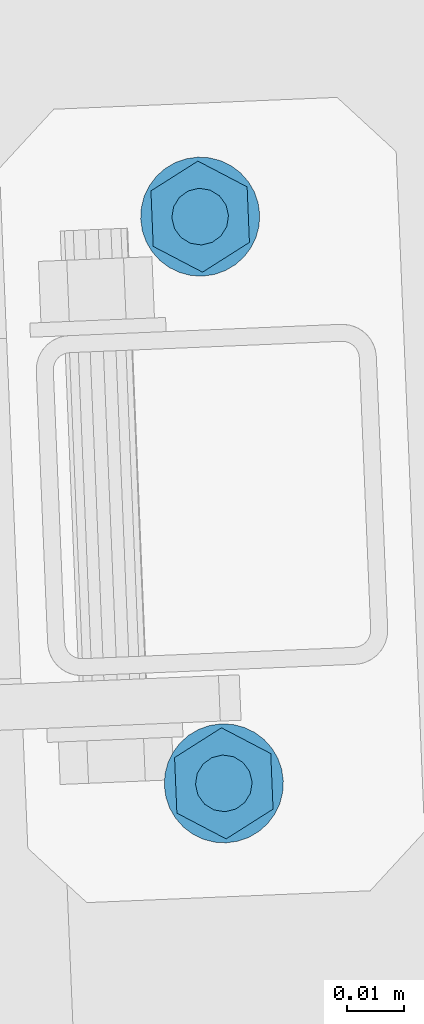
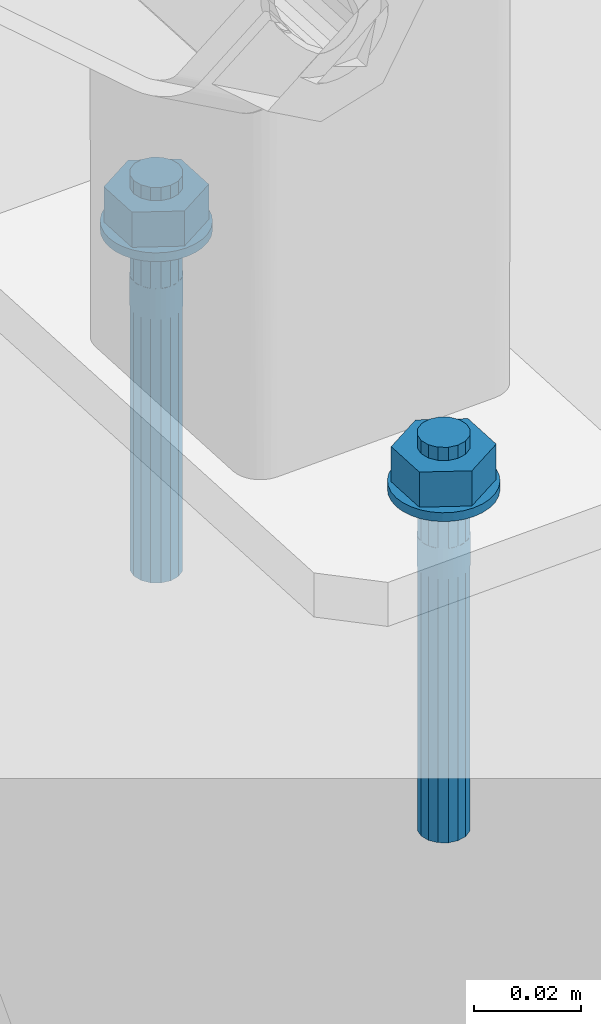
# One storey, part 223 of 288: 2 mechanical fasteners.
"""IFC2X3 building model written with IfcOpenShell, lengths in millimetres."""

from ifc_helpers import new_model, entity, si_unit, converted_unit, origin_with_axes, place, context, project, spatial, faceted_brep, element, save


model = new_model("IFC2X3")

# Units and contexts
model_context = context("Model", 3, precision=1e-09, world=origin_with_axes())
ifc_project = project(units=[si_unit("LENGTHUNIT", "METRE", prefix="MILLI"), si_unit("AREAUNIT", "SQUARE_METRE"), si_unit("VOLUMEUNIT", "CUBIC_METRE"), converted_unit("PLANEANGLEUNIT", "DEGREE", entity("IfcPlaneAngleMeasure", 0.01745329), si_unit("PLANEANGLEUNIT", "RADIAN"), dimensions=[0, 0, 0, 0, 0, 0, 0])], contexts=[model_context])

# Site, building, storey
site_placement = place(None, origin_with_axes())
site = spatial("IfcSite", under=ifc_project, at=site_placement, Name="Remont ?wietlik?w nad MC w NCPP w Opolu", CompositionType="ELEMENT")
building_placement = place(site_placement, origin_with_axes())
building = spatial("IfcBuilding", under=site, at=building_placement, Name="Konstrukcja 1", CompositionType="ELEMENT")
storey_placement = place(building_placement, origin_with_axes())
storey = spatial("IfcBuildingStorey", under=building, at=storey_placement, Name="Default Storey", CompositionType="ELEMENT", Elevation=0.0)

# Mechanical fasteners
mechanical_fastener_1_placement = place(None, origin_with_axes())
element("IfcMechanicalFastener", 1, at=mechanical_fastener_1_placement, inside=storey, ObjectType="Anchor_Bolt", NominalDiameter=10.0, NominalLength=90.0, context=model_context, shape_type="Brep", body=[
    faceted_brep([(1601.84122107, 7074.470400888, 12.000000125), (1601.84122107, 7074.470400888, 10.000000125), (1601.554279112, 7076.508662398, 10.000000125), (1601.554279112, 7076.508662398, 12.000000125), (1600.875205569, 7078.451779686, 10.000000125), (1600.875205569, 7078.451779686, 12.000000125), (1599.830096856, 7080.225079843, 10.000000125), (1599.830096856, 7080.225079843, 12.000000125), (1598.459115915, 7081.76041594, 10.000000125), (1598.459115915, 7081.76041594, 12.000000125), (1596.814948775, 7082.998785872, 10.000000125), (1596.814948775, 7082.998785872, 12.000000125), (1594.960779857, 7083.892599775, 10.000000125), (1594.960779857, 7083.892599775, 12.000000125), (1592.967863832, 7084.407508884, 10.000000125), (1592.967863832, 7084.407508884, 12.000000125), (1590.912787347, 7084.523725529, 10.000000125), (1590.912787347, 7084.523725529, 12.000000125), (1588.874525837, 7084.236783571, 10.000000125), (1588.874525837, 7084.236783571, 12.000000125), (1586.931408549, 7083.557710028, 10.000000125), (1586.931408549, 7083.557710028, 12.000000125), (1585.158108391, 7082.512601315, 10.000000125), (1585.158108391, 7082.512601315, 12.000000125), (1583.622772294, 7081.141620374, 10.000000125), (1583.622772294, 7081.141620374, 12.000000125), (1582.384402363, 7079.497453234, 10.000000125), (1582.384402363, 7079.497453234, 12.000000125), (1581.490588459, 7077.643284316, 10.000000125), (1581.490588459, 7077.643284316, 12.000000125), (1580.975679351, 7075.650368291, 10.000000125), (1580.975679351, 7075.650368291, 12.000000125), (1580.859462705, 7073.595291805, 10.000000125), (1580.859462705, 7073.595291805, 12.000000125), (1581.146404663, 7071.557030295, 10.000000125), (1581.146404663, 7071.557030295, 12.000000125), (1581.825478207, 7069.613913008, 10.000000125), (1581.825478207, 7069.613913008, 12.000000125), (1582.87058692, 7067.84061285, 10.000000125), (1582.87058692, 7067.84061285, 12.000000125), (1584.24156786, 7066.305276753, 10.000000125), (1584.24156786, 7066.305276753, 12.000000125), (1585.885735, 7065.066906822, 10.000000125), (1585.885735, 7065.066906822, 12.000000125), (1587.739903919, 7064.173092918, 10.000000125), (1587.739903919, 7064.173092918, 12.000000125), (1589.732819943, 7063.65818381, 10.000000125), (1589.732819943, 7063.65818381, 12.000000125), (1591.787896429, 7063.541967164, 10.000000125), (1591.787896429, 7063.541967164, 12.000000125), (1593.826157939, 7063.828909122, 10.000000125), (1593.826157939, 7063.828909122, 12.000000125), (1595.769275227, 7064.507982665, 10.000000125), (1595.769275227, 7064.507982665, 12.000000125), (1597.542575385, 7065.553091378, 10.000000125), (1597.542575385, 7065.553091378, 12.000000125), (1599.077911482, 7066.924072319, 10.000000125), (1599.077911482, 7066.924072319, 12.000000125), (1600.316281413, 7068.568239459, 10.000000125), (1600.316281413, 7068.568239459, 12.000000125), (1601.210095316, 7070.422408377, 10.000000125), (1601.210095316, 7070.422408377, 12.000000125), (1601.725004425, 7072.415324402, 10.000000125), (1601.725004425, 7072.415324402, 12.000000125)], [[[0, 1, 2, 3]], [[3, 2, 4, 5]], [[5, 4, 6, 7]], [[7, 6, 8, 9]], [[9, 8, 10, 11]], [[11, 10, 12, 13]], [[13, 12, 14, 15]], [[15, 14, 16, 17]], [[17, 16, 18, 19]], [[19, 18, 20, 21]], [[21, 20, 22, 23]], [[23, 22, 24, 25]], [[25, 24, 26, 27]], [[27, 26, 28, 29]], [[29, 28, 30, 31]], [[31, 30, 32, 33]], [[33, 32, 34, 35]], [[35, 34, 36, 37]], [[37, 36, 38, 39]], [[39, 38, 40, 41]], [[41, 40, 42, 43]], [[43, 42, 44, 45]], [[45, 44, 46, 47]], [[47, 46, 48, 49]], [[49, 48, 50, 51]], [[51, 50, 52, 53]], [[53, 52, 54, 55]], [[55, 54, 56, 57]], [[57, 56, 58, 59]], [[59, 58, 60, 61]], [[61, 60, 62, 63]], [[63, 62, 1, 0]], [[0, 3, 5, 7, 9, 11, 13, 15, 17, 19, 21, 23, 25, 27, 29, 31, 33, 35, 37, 39, 41, 43, 45, 47, 49, 51, 53, 55, 57, 59, 61, 63]], [[1, 62, 60, 58, 56, 54, 52, 50, 48, 46, 44, 42, 40, 38, 36, 34, 32, 30, 28, 26, 24, 22, 20, 18, 16, 14, 12, 10, 8, 6, 4, 2]]]),
    faceted_brep([(1582.666473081, 7078.57491884, 12.000000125), (1582.666473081, 7078.57491884, 20.000000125), (1590.941957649, 7083.824333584, 20.000000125), (1590.941957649, 7083.824333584, 12.000000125), (1599.625826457, 7079.28226109, 20.000000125), (1599.625826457, 7079.28226109, 12.000000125), (1600.034210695, 7069.490773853, 20.000000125), (1600.034210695, 7069.490773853, 12.000000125), (1591.758726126, 7064.24135911, 20.000000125), (1591.758726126, 7064.24135911, 12.000000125), (1583.074857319, 7068.783431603, 20.000000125), (1583.074857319, 7068.783431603, 12.000000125)], [[[0, 1, 2, 3]], [[3, 2, 4, 5]], [[5, 4, 6, 7]], [[7, 6, 8, 9]], [[9, 8, 10, 11]], [[11, 10, 1, 0]], [[4, 2, 1, 10, 8, 6]], [[0, 3, 5, 7, 9, 11]]]),
    faceted_brep([(1596.345998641, 7074.241205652, 23.000000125), (1596.345998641, 7074.241205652, 20.000000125), (1595.88599126, 7076.137100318, 20.000000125), (1595.88599126, 7076.137100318, 23.000000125), (1594.735472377, 7077.712641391, 20.000000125), (1594.735472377, 7077.712641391, 23.000000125), (1593.069598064, 7078.727967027, 20.000000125), (1593.069598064, 7078.727967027, 23.000000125), (1591.141982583, 7079.0285031, 20.000000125), (1591.141982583, 7079.0285031, 23.000000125), (1589.246087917, 7078.568495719, 20.000000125), (1589.246087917, 7078.568495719, 23.000000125), (1587.670546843, 7077.417976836, 20.000000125), (1587.670546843, 7077.417976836, 23.000000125), (1586.655221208, 7075.752102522, 20.000000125), (1586.655221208, 7075.752102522, 23.000000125), (1586.354685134, 7073.824487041, 20.000000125), (1586.354685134, 7073.824487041, 23.000000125), (1586.814692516, 7071.928592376, 20.000000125), (1586.814692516, 7071.928592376, 23.000000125), (1587.965211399, 7070.353051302, 20.000000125), (1587.965211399, 7070.353051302, 23.000000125), (1589.631085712, 7069.337725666, 20.000000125), (1589.631085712, 7069.337725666, 23.000000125), (1591.558701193, 7069.037189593, 20.000000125), (1591.558701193, 7069.037189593, 23.000000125), (1593.454595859, 7069.497196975, 20.000000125), (1593.454595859, 7069.497196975, 23.000000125), (1595.030136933, 7070.647715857, 20.000000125), (1595.030136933, 7070.647715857, 23.000000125), (1596.045462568, 7072.313590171, 20.000000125), (1596.045462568, 7072.313590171, 23.000000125)], [[[0, 1, 2, 3]], [[3, 2, 4, 5]], [[5, 4, 6, 7]], [[7, 6, 8, 9]], [[9, 8, 10, 11]], [[11, 10, 12, 13]], [[13, 12, 14, 15]], [[15, 14, 16, 17]], [[17, 16, 18, 19]], [[19, 18, 20, 21]], [[21, 20, 22, 23]], [[23, 22, 24, 25]], [[25, 24, 26, 27]], [[27, 26, 28, 29]], [[29, 28, 30, 31]], [[31, 30, 1, 0]], [[0, 3, 5, 7, 9, 11, 13, 15, 17, 19, 21, 23, 25, 27, 29, 31]], [[1, 30, 28, 26, 24, 22, 20, 18, 16, 14, 12, 10, 8, 6, 4, 2]]]),
    faceted_brep([(1596.345998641, 7074.241205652, 10.000000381), (1596.345998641, 7074.241205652, 1.25e-07), (1595.88599126, 7076.137100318, 1.25e-07), (1595.88599126, 7076.137100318, 10.000000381), (1594.735472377, 7077.712641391, 1.25e-07), (1594.735472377, 7077.712641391, 10.000000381), (1593.069598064, 7078.727967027, 1.25e-07), (1593.069598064, 7078.727967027, 10.000000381), (1591.141982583, 7079.0285031, 1.25e-07), (1591.141982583, 7079.0285031, 10.000000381), (1589.246087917, 7078.568495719, 1.25e-07), (1589.246087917, 7078.568495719, 10.000000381), (1587.670546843, 7077.417976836, 1.25e-07), (1587.670546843, 7077.417976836, 10.000000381), (1586.655221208, 7075.752102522, 1.25e-07), (1586.655221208, 7075.752102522, 10.000000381), (1586.354685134, 7073.824487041, 1.25e-07), (1586.354685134, 7073.824487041, 10.000000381), (1586.814692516, 7071.928592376, 1.25e-07), (1586.814692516, 7071.928592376, 10.000000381), (1587.965211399, 7070.353051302, 1.25e-07), (1587.965211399, 7070.353051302, 10.000000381), (1589.631085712, 7069.337725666, 1.25e-07), (1589.631085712, 7069.337725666, 10.000000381), (1591.558701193, 7069.037189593, 1.25e-07), (1591.558701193, 7069.037189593, 10.000000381), (1593.454595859, 7069.497196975, 1.25e-07), (1593.454595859, 7069.497196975, 10.000000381), (1595.030136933, 7070.647715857, 1.25e-07), (1595.030136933, 7070.647715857, 10.000000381), (1596.045462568, 7072.313590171, 1.25e-07), (1596.045462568, 7072.313590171, 10.000000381)], [[[0, 1, 2, 3]], [[3, 2, 4, 5]], [[5, 4, 6, 7]], [[7, 6, 8, 9]], [[9, 8, 10, 11]], [[11, 10, 12, 13]], [[13, 12, 14, 15]], [[15, 14, 16, 17]], [[17, 16, 18, 19]], [[19, 18, 20, 21]], [[21, 20, 22, 23]], [[23, 22, 24, 25]], [[25, 24, 26, 27]], [[27, 26, 28, 29]], [[29, 28, 30, 31]], [[31, 30, 1, 0]], [[0, 3, 5, 7, 9, 11, 13, 15, 17, 19, 21, 23, 25, 27, 29, 31]], [[1, 30, 28, 26, 24, 22, 20, 18, 16, 14, 12, 10, 8, 6, 4, 2]]]),
    faceted_brep([(1596.345998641, 7074.241205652, -1.31e-07), (1596.345998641, 7074.241205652, -6.999999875), (1596.209359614, 7075.211806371, -6.999999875), (1596.209359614, 7075.211806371, -1.31e-07), (1595.88599126, 7076.137100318, -6.999999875), (1595.88599126, 7076.137100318, -1.31e-07), (1595.388320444, 7076.981528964, -6.999999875), (1595.388320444, 7076.981528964, -1.31e-07), (1594.735472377, 7077.712641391, -6.999999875), (1594.735472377, 7077.712641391, -1.31e-07), (1593.952535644, 7078.302341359, -6.999999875), (1593.952535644, 7078.302341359, -1.31e-07), (1593.069598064, 7078.727967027, -6.999999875), (1593.069598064, 7078.727967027, -1.31e-07), (1592.120590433, 7078.97316184, -6.999999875), (1592.120590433, 7078.97316184, -1.31e-07), (1591.141982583, 7079.0285031, -6.999999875), (1591.141982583, 7079.0285031, -1.31e-07), (1590.171381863, 7078.891864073, -6.999999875), (1590.171381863, 7078.891864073, -1.31e-07), (1589.246087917, 7078.568495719, -6.999999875), (1589.246087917, 7078.568495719, -1.31e-07), (1588.40165927, 7078.070824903, -6.999999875), (1588.40165927, 7078.070824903, -1.31e-07), (1587.670546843, 7077.417976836, -6.999999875), (1587.670546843, 7077.417976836, -1.31e-07), (1587.080846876, 7076.635040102, -6.999999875), (1587.080846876, 7076.635040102, -1.31e-07), (1586.655221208, 7075.752102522, -6.999999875), (1586.655221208, 7075.752102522, -1.31e-07), (1586.410026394, 7074.803094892, -6.999999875), (1586.410026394, 7074.803094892, -1.31e-07), (1586.354685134, 7073.824487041, -6.999999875), (1586.354685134, 7073.824487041, -1.31e-07), (1586.491324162, 7072.853886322, -6.999999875), (1586.491324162, 7072.853886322, -1.31e-07), (1586.814692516, 7071.928592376, -6.999999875), (1586.814692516, 7071.928592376, -1.31e-07), (1587.312363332, 7071.084163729, -6.999999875), (1587.312363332, 7071.084163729, -1.31e-07), (1587.965211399, 7070.353051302, -6.999999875), (1587.965211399, 7070.353051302, -1.31e-07), (1588.748148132, 7069.763351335, -6.999999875), (1588.748148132, 7069.763351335, -1.31e-07), (1589.631085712, 7069.337725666, -6.999999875), (1589.631085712, 7069.337725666, -1.31e-07), (1590.580093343, 7069.092530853, -6.999999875), (1590.580093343, 7069.092530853, -1.31e-07), (1591.558701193, 7069.037189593, -6.999999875), (1591.558701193, 7069.037189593, -1.31e-07), (1592.529301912, 7069.173828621, -6.999999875), (1592.529301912, 7069.173828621, -1.31e-07), (1593.454595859, 7069.497196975, -6.999999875), (1593.454595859, 7069.497196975, -1.31e-07), (1594.299024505, 7069.99486779, -6.999999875), (1594.299024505, 7069.99486779, -1.31e-07), (1595.030136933, 7070.647715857, -6.999999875), (1595.030136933, 7070.647715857, -1.31e-07), (1595.6198369, 7071.430652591, -6.999999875), (1595.6198369, 7071.430652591, -1.31e-07), (1596.045462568, 7072.313590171, -6.999999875), (1596.045462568, 7072.313590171, -1.31e-07), (1596.290657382, 7073.262597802, -6.999999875), (1596.290657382, 7073.262597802, -1.31e-07)], [[[0, 1, 2, 3]], [[3, 2, 4, 5]], [[5, 4, 6, 7]], [[7, 6, 8, 9]], [[9, 8, 10, 11]], [[11, 10, 12, 13]], [[13, 12, 14, 15]], [[15, 14, 16, 17]], [[17, 16, 18, 19]], [[19, 18, 20, 21]], [[21, 20, 22, 23]], [[23, 22, 24, 25]], [[25, 24, 26, 27]], [[27, 26, 28, 29]], [[29, 28, 30, 31]], [[31, 30, 32, 33]], [[33, 32, 34, 35]], [[35, 34, 36, 37]], [[37, 36, 38, 39]], [[39, 38, 40, 41]], [[41, 40, 42, 43]], [[43, 42, 44, 45]], [[45, 44, 46, 47]], [[47, 46, 48, 49]], [[49, 48, 50, 51]], [[51, 50, 52, 53]], [[53, 52, 54, 55]], [[55, 54, 56, 57]], [[57, 56, 58, 59]], [[59, 58, 60, 61]], [[61, 60, 62, 63]], [[63, 62, 1, 0]], [[0, 3, 5, 7, 9, 11, 13, 15, 17, 19, 21, 23, 25, 27, 29, 31, 33, 35, 37, 39, 41, 43, 45, 47, 49, 51, 53, 55, 57, 59, 61, 63]], [[1, 62, 60, 58, 56, 54, 52, 50, 48, 46, 44, 42, 40, 38, 36, 34, 32, 30, 28, 26, 24, 22, 20, 18, 16, 14, 12, 10, 8, 6, 4, 2]]]),
    faceted_brep([(1596.345998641, 7074.241205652, -6.999999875), (1596.345998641, 7074.241205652, -66.999999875), (1595.88599126, 7076.137100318, -66.999999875), (1595.88599126, 7076.137100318, -6.999999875), (1594.735472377, 7077.712641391, -66.999999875), (1594.735472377, 7077.712641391, -6.999999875), (1593.069598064, 7078.727967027, -66.999999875), (1593.069598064, 7078.727967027, -6.999999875), (1591.141982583, 7079.0285031, -66.999999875), (1591.141982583, 7079.0285031, -6.999999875), (1589.246087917, 7078.568495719, -66.999999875), (1589.246087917, 7078.568495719, -6.999999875), (1587.670546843, 7077.417976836, -66.999999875), (1587.670546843, 7077.417976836, -6.999999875), (1586.655221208, 7075.752102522, -66.999999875), (1586.655221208, 7075.752102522, -6.999999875), (1586.354685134, 7073.824487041, -66.999999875), (1586.354685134, 7073.824487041, -6.999999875), (1586.814692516, 7071.928592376, -66.999999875), (1586.814692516, 7071.928592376, -6.999999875), (1587.965211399, 7070.353051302, -66.999999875), (1587.965211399, 7070.353051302, -6.999999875), (1589.631085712, 7069.337725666, -66.999999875), (1589.631085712, 7069.337725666, -6.999999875), (1591.558701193, 7069.037189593, -66.999999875), (1591.558701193, 7069.037189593, -6.999999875), (1593.454595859, 7069.497196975, -66.999999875), (1593.454595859, 7069.497196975, -6.999999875), (1595.030136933, 7070.647715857, -66.999999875), (1595.030136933, 7070.647715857, -6.999999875), (1596.045462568, 7072.313590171, -66.999999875), (1596.045462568, 7072.313590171, -6.999999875)], [[[0, 1, 2, 3]], [[3, 2, 4, 5]], [[5, 4, 6, 7]], [[7, 6, 8, 9]], [[9, 8, 10, 11]], [[11, 10, 12, 13]], [[13, 12, 14, 15]], [[15, 14, 16, 17]], [[17, 16, 18, 19]], [[19, 18, 20, 21]], [[21, 20, 22, 23]], [[23, 22, 24, 25]], [[25, 24, 26, 27]], [[27, 26, 28, 29]], [[29, 28, 30, 31]], [[31, 30, 1, 0]], [[0, 3, 5, 7, 9, 11, 13, 15, 17, 19, 21, 23, 25, 27, 29, 31]], [[1, 30, 28, 26, 24, 22, 20, 18, 16, 14, 12, 10, 8, 6, 4, 2]]]),
])
mechanical_fastener_2_placement = place(None, origin_with_axes())
element("IfcMechanicalFastener", 2, at=mechanical_fastener_2_placement, inside=storey, ObjectType="Anchor_Bolt", NominalDiameter=10.0, NominalLength=90.0, context=model_context, shape_type="Brep", body=[
    faceted_brep([(1597.674034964, 7174.38353596, 12.000000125), (1597.674034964, 7174.38353596, 10.000000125), (1597.387093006, 7176.42179747, 10.000000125), (1597.387093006, 7176.42179747, 12.000000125), (1596.708019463, 7178.364914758, 10.000000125), (1596.708019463, 7178.364914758, 12.000000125), (1595.66291075, 7180.138214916, 10.000000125), (1595.66291075, 7180.138214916, 12.000000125), (1594.291929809, 7181.673551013, 10.000000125), (1594.291929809, 7181.673551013, 12.000000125), (1592.647762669, 7182.911920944, 10.000000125), (1592.647762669, 7182.911920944, 12.000000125), (1590.793593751, 7183.805734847, 10.000000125), (1590.793593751, 7183.805734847, 12.000000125), (1588.800677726, 7184.320643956, 10.000000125), (1588.800677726, 7184.320643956, 12.000000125), (1586.745601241, 7184.436860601, 10.000000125), (1586.745601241, 7184.436860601, 12.000000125), (1584.70733973, 7184.149918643, 10.000000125), (1584.70733973, 7184.149918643, 12.000000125), (1582.764222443, 7183.4708451, 10.000000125), (1582.764222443, 7183.4708451, 12.000000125), (1580.990922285, 7182.425736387, 10.000000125), (1580.990922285, 7182.425736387, 12.000000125), (1579.455586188, 7181.054755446, 10.000000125), (1579.455586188, 7181.054755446, 12.000000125), (1578.217216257, 7179.410588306, 10.000000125), (1578.217216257, 7179.410588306, 12.000000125), (1577.323402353, 7177.556419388, 10.000000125), (1577.323402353, 7177.556419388, 12.000000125), (1576.808493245, 7175.563503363, 10.000000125), (1576.808493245, 7175.563503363, 12.000000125), (1576.692276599, 7173.508426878, 10.000000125), (1576.692276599, 7173.508426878, 12.000000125), (1576.979218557, 7171.470165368, 10.000000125), (1576.979218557, 7171.470165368, 12.000000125), (1577.658292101, 7169.52704808, 10.000000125), (1577.658292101, 7169.52704808, 12.000000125), (1578.703400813, 7167.753747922, 10.000000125), (1578.703400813, 7167.753747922, 12.000000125), (1580.074381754, 7166.218411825, 10.000000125), (1580.074381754, 7166.218411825, 12.000000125), (1581.718548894, 7164.980041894, 10.000000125), (1581.718548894, 7164.980041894, 12.000000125), (1583.572717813, 7164.08622799, 10.000000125), (1583.572717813, 7164.08622799, 12.000000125), (1585.565633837, 7163.571318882, 10.000000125), (1585.565633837, 7163.571318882, 12.000000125), (1587.620710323, 7163.455102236, 10.000000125), (1587.620710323, 7163.455102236, 12.000000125), (1589.658971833, 7163.742044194, 10.000000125), (1589.658971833, 7163.742044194, 12.000000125), (1591.602089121, 7164.421117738, 10.000000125), (1591.602089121, 7164.421117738, 12.000000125), (1593.375389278, 7165.466226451, 10.000000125), (1593.375389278, 7165.466226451, 12.000000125), (1594.910725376, 7166.837207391, 10.000000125), (1594.910725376, 7166.837207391, 12.000000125), (1596.149095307, 7168.481374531, 10.000000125), (1596.149095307, 7168.481374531, 12.000000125), (1597.04290921, 7170.33554345, 10.000000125), (1597.04290921, 7170.33554345, 12.000000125), (1597.557818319, 7172.328459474, 10.000000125), (1597.557818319, 7172.328459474, 12.000000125)], [[[0, 1, 2, 3]], [[3, 2, 4, 5]], [[5, 4, 6, 7]], [[7, 6, 8, 9]], [[9, 8, 10, 11]], [[11, 10, 12, 13]], [[13, 12, 14, 15]], [[15, 14, 16, 17]], [[17, 16, 18, 19]], [[19, 18, 20, 21]], [[21, 20, 22, 23]], [[23, 22, 24, 25]], [[25, 24, 26, 27]], [[27, 26, 28, 29]], [[29, 28, 30, 31]], [[31, 30, 32, 33]], [[33, 32, 34, 35]], [[35, 34, 36, 37]], [[37, 36, 38, 39]], [[39, 38, 40, 41]], [[41, 40, 42, 43]], [[43, 42, 44, 45]], [[45, 44, 46, 47]], [[47, 46, 48, 49]], [[49, 48, 50, 51]], [[51, 50, 52, 53]], [[53, 52, 54, 55]], [[55, 54, 56, 57]], [[57, 56, 58, 59]], [[59, 58, 60, 61]], [[61, 60, 62, 63]], [[63, 62, 1, 0]], [[0, 3, 5, 7, 9, 11, 13, 15, 17, 19, 21, 23, 25, 27, 29, 31, 33, 35, 37, 39, 41, 43, 45, 47, 49, 51, 53, 55, 57, 59, 61, 63]], [[1, 62, 60, 58, 56, 54, 52, 50, 48, 46, 44, 42, 40, 38, 36, 34, 32, 30, 28, 26, 24, 22, 20, 18, 16, 14, 12, 10, 8, 6, 4, 2]]]),
    faceted_brep([(1578.499286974, 7178.488053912, 12.000000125), (1578.499286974, 7178.488053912, 20.000000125), (1586.774771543, 7183.737468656, 20.000000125), (1586.774771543, 7183.737468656, 12.000000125), (1595.458640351, 7179.195396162, 20.000000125), (1595.458640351, 7179.195396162, 12.000000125), (1595.867024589, 7169.403908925, 20.000000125), (1595.867024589, 7169.403908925, 12.000000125), (1587.59154002, 7164.154494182, 20.000000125), (1587.59154002, 7164.154494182, 12.000000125), (1578.907671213, 7168.696566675, 20.000000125), (1578.907671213, 7168.696566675, 12.000000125)], [[[0, 1, 2, 3]], [[3, 2, 4, 5]], [[5, 4, 6, 7]], [[7, 6, 8, 9]], [[9, 8, 10, 11]], [[11, 10, 1, 0]], [[4, 2, 1, 10, 8, 6]], [[0, 3, 5, 7, 9, 11]]]),
    faceted_brep([(1592.178812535, 7174.154340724, 23.000000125), (1592.178812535, 7174.154340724, 20.000000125), (1591.718805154, 7176.05023539, 20.000000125), (1591.718805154, 7176.05023539, 23.000000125), (1590.568286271, 7177.625776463, 20.000000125), (1590.568286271, 7177.625776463, 23.000000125), (1588.902411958, 7178.641102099, 20.000000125), (1588.902411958, 7178.641102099, 23.000000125), (1586.974796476, 7178.941638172, 20.000000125), (1586.974796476, 7178.941638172, 23.000000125), (1585.078901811, 7178.481630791, 20.000000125), (1585.078901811, 7178.481630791, 23.000000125), (1583.503360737, 7177.331111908, 20.000000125), (1583.503360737, 7177.331111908, 23.000000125), (1582.488035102, 7175.665237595, 20.000000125), (1582.488035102, 7175.665237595, 23.000000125), (1582.187499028, 7173.737622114, 20.000000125), (1582.187499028, 7173.737622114, 23.000000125), (1582.64750641, 7171.841727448, 20.000000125), (1582.64750641, 7171.841727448, 23.000000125), (1583.798025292, 7170.266186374, 20.000000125), (1583.798025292, 7170.266186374, 23.000000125), (1585.463899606, 7169.250860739, 20.000000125), (1585.463899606, 7169.250860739, 23.000000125), (1587.391515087, 7168.950324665, 20.000000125), (1587.391515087, 7168.950324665, 23.000000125), (1589.287409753, 7169.410332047, 20.000000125), (1589.287409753, 7169.410332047, 23.000000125), (1590.862950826, 7170.56085093, 20.000000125), (1590.862950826, 7170.56085093, 23.000000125), (1591.878276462, 7172.226725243, 20.000000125), (1591.878276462, 7172.226725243, 23.000000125)], [[[0, 1, 2, 3]], [[3, 2, 4, 5]], [[5, 4, 6, 7]], [[7, 6, 8, 9]], [[9, 8, 10, 11]], [[11, 10, 12, 13]], [[13, 12, 14, 15]], [[15, 14, 16, 17]], [[17, 16, 18, 19]], [[19, 18, 20, 21]], [[21, 20, 22, 23]], [[23, 22, 24, 25]], [[25, 24, 26, 27]], [[27, 26, 28, 29]], [[29, 28, 30, 31]], [[31, 30, 1, 0]], [[0, 3, 5, 7, 9, 11, 13, 15, 17, 19, 21, 23, 25, 27, 29, 31]], [[1, 30, 28, 26, 24, 22, 20, 18, 16, 14, 12, 10, 8, 6, 4, 2]]]),
    faceted_brep([(1592.178812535, 7174.154340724, 10.000000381), (1592.178812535, 7174.154340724, 1.25e-07), (1591.718805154, 7176.05023539, 1.25e-07), (1591.718805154, 7176.05023539, 10.000000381), (1590.568286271, 7177.625776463, 1.25e-07), (1590.568286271, 7177.625776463, 10.000000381), (1588.902411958, 7178.641102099, 1.25e-07), (1588.902411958, 7178.641102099, 10.000000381), (1586.974796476, 7178.941638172, 1.25e-07), (1586.974796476, 7178.941638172, 10.000000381), (1585.078901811, 7178.481630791, 1.25e-07), (1585.078901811, 7178.481630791, 10.000000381), (1583.503360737, 7177.331111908, 1.25e-07), (1583.503360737, 7177.331111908, 10.000000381), (1582.488035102, 7175.665237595, 1.25e-07), (1582.488035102, 7175.665237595, 10.000000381), (1582.187499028, 7173.737622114, 1.25e-07), (1582.187499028, 7173.737622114, 10.000000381), (1582.64750641, 7171.841727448, 1.25e-07), (1582.64750641, 7171.841727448, 10.000000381), (1583.798025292, 7170.266186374, 1.25e-07), (1583.798025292, 7170.266186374, 10.000000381), (1585.463899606, 7169.250860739, 1.25e-07), (1585.463899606, 7169.250860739, 10.000000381), (1587.391515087, 7168.950324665, 1.25e-07), (1587.391515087, 7168.950324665, 10.000000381), (1589.287409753, 7169.410332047, 1.25e-07), (1589.287409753, 7169.410332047, 10.000000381), (1590.862950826, 7170.56085093, 1.25e-07), (1590.862950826, 7170.56085093, 10.000000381), (1591.878276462, 7172.226725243, 1.25e-07), (1591.878276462, 7172.226725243, 10.000000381)], [[[0, 1, 2, 3]], [[3, 2, 4, 5]], [[5, 4, 6, 7]], [[7, 6, 8, 9]], [[9, 8, 10, 11]], [[11, 10, 12, 13]], [[13, 12, 14, 15]], [[15, 14, 16, 17]], [[17, 16, 18, 19]], [[19, 18, 20, 21]], [[21, 20, 22, 23]], [[23, 22, 24, 25]], [[25, 24, 26, 27]], [[27, 26, 28, 29]], [[29, 28, 30, 31]], [[31, 30, 1, 0]], [[0, 3, 5, 7, 9, 11, 13, 15, 17, 19, 21, 23, 25, 27, 29, 31]], [[1, 30, 28, 26, 24, 22, 20, 18, 16, 14, 12, 10, 8, 6, 4, 2]]]),
    faceted_brep([(1592.178812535, 7174.154340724, -1.31e-07), (1592.178812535, 7174.154340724, -6.999999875), (1592.042173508, 7175.124941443, -6.999999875), (1592.042173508, 7175.124941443, -1.31e-07), (1591.718805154, 7176.05023539, -6.999999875), (1591.718805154, 7176.05023539, -1.31e-07), (1591.221134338, 7176.894664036, -6.999999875), (1591.221134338, 7176.894664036, -1.31e-07), (1590.568286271, 7177.625776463, -6.999999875), (1590.568286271, 7177.625776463, -1.31e-07), (1589.785349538, 7178.215476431, -6.999999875), (1589.785349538, 7178.215476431, -1.31e-07), (1588.902411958, 7178.641102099, -6.999999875), (1588.902411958, 7178.641102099, -1.31e-07), (1587.953404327, 7178.886296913, -6.999999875), (1587.953404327, 7178.886296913, -1.31e-07), (1586.974796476, 7178.941638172, -6.999999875), (1586.974796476, 7178.941638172, -1.31e-07), (1586.004195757, 7178.804999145, -6.999999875), (1586.004195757, 7178.804999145, -1.31e-07), (1585.078901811, 7178.481630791, -6.999999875), (1585.078901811, 7178.481630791, -1.31e-07), (1584.234473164, 7177.983959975, -6.999999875), (1584.234473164, 7177.983959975, -1.31e-07), (1583.503360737, 7177.331111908, -6.999999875), (1583.503360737, 7177.331111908, -1.31e-07), (1582.91366077, 7176.548175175, -6.999999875), (1582.91366077, 7176.548175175, -1.31e-07), (1582.488035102, 7175.665237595, -6.999999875), (1582.488035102, 7175.665237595, -1.31e-07), (1582.242840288, 7174.716229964, -6.999999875), (1582.242840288, 7174.716229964, -1.31e-07), (1582.187499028, 7173.737622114, -6.999999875), (1582.187499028, 7173.737622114, -1.31e-07), (1582.324138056, 7172.767021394, -6.999999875), (1582.324138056, 7172.767021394, -1.31e-07), (1582.64750641, 7171.841727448, -6.999999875), (1582.64750641, 7171.841727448, -1.31e-07), (1583.145177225, 7170.997298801, -6.999999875), (1583.145177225, 7170.997298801, -1.31e-07), (1583.798025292, 7170.266186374, -6.999999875), (1583.798025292, 7170.266186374, -1.31e-07), (1584.580962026, 7169.676486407, -6.999999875), (1584.580962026, 7169.676486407, -1.31e-07), (1585.463899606, 7169.250860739, -6.999999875), (1585.463899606, 7169.250860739, -1.31e-07), (1586.412907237, 7169.005665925, -6.999999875), (1586.412907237, 7169.005665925, -1.31e-07), (1587.391515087, 7168.950324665, -6.999999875), (1587.391515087, 7168.950324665, -1.31e-07), (1588.362115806, 7169.086963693, -6.999999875), (1588.362115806, 7169.086963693, -1.31e-07), (1589.287409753, 7169.410332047, -6.999999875), (1589.287409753, 7169.410332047, -1.31e-07), (1590.131838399, 7169.908002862, -6.999999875), (1590.131838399, 7169.908002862, -1.31e-07), (1590.862950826, 7170.56085093, -6.999999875), (1590.862950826, 7170.56085093, -1.31e-07), (1591.452650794, 7171.343787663, -6.999999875), (1591.452650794, 7171.343787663, -1.31e-07), (1591.878276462, 7172.226725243, -6.999999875), (1591.878276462, 7172.226725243, -1.31e-07), (1592.123471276, 7173.175732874, -6.999999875), (1592.123471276, 7173.175732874, -1.31e-07)], [[[0, 1, 2, 3]], [[3, 2, 4, 5]], [[5, 4, 6, 7]], [[7, 6, 8, 9]], [[9, 8, 10, 11]], [[11, 10, 12, 13]], [[13, 12, 14, 15]], [[15, 14, 16, 17]], [[17, 16, 18, 19]], [[19, 18, 20, 21]], [[21, 20, 22, 23]], [[23, 22, 24, 25]], [[25, 24, 26, 27]], [[27, 26, 28, 29]], [[29, 28, 30, 31]], [[31, 30, 32, 33]], [[33, 32, 34, 35]], [[35, 34, 36, 37]], [[37, 36, 38, 39]], [[39, 38, 40, 41]], [[41, 40, 42, 43]], [[43, 42, 44, 45]], [[45, 44, 46, 47]], [[47, 46, 48, 49]], [[49, 48, 50, 51]], [[51, 50, 52, 53]], [[53, 52, 54, 55]], [[55, 54, 56, 57]], [[57, 56, 58, 59]], [[59, 58, 60, 61]], [[61, 60, 62, 63]], [[63, 62, 1, 0]], [[0, 3, 5, 7, 9, 11, 13, 15, 17, 19, 21, 23, 25, 27, 29, 31, 33, 35, 37, 39, 41, 43, 45, 47, 49, 51, 53, 55, 57, 59, 61, 63]], [[1, 62, 60, 58, 56, 54, 52, 50, 48, 46, 44, 42, 40, 38, 36, 34, 32, 30, 28, 26, 24, 22, 20, 18, 16, 14, 12, 10, 8, 6, 4, 2]]]),
    faceted_brep([(1592.178812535, 7174.154340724, -6.999999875), (1592.178812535, 7174.154340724, -66.999999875), (1591.718805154, 7176.05023539, -66.999999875), (1591.718805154, 7176.05023539, -6.999999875), (1590.568286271, 7177.625776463, -66.999999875), (1590.568286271, 7177.625776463, -6.999999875), (1588.902411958, 7178.641102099, -66.999999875), (1588.902411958, 7178.641102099, -6.999999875), (1586.974796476, 7178.941638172, -66.999999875), (1586.974796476, 7178.941638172, -6.999999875), (1585.078901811, 7178.481630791, -66.999999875), (1585.078901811, 7178.481630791, -6.999999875), (1583.503360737, 7177.331111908, -66.999999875), (1583.503360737, 7177.331111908, -6.999999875), (1582.488035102, 7175.665237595, -66.999999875), (1582.488035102, 7175.665237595, -6.999999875), (1582.187499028, 7173.737622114, -66.999999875), (1582.187499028, 7173.737622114, -6.999999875), (1582.64750641, 7171.841727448, -66.999999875), (1582.64750641, 7171.841727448, -6.999999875), (1583.798025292, 7170.266186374, -66.999999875), (1583.798025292, 7170.266186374, -6.999999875), (1585.463899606, 7169.250860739, -66.999999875), (1585.463899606, 7169.250860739, -6.999999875), (1587.391515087, 7168.950324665, -66.999999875), (1587.391515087, 7168.950324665, -6.999999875), (1589.287409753, 7169.410332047, -66.999999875), (1589.287409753, 7169.410332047, -6.999999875), (1590.862950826, 7170.56085093, -66.999999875), (1590.862950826, 7170.56085093, -6.999999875), (1591.878276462, 7172.226725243, -66.999999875), (1591.878276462, 7172.226725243, -6.999999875)], [[[0, 1, 2, 3]], [[3, 2, 4, 5]], [[5, 4, 6, 7]], [[7, 6, 8, 9]], [[9, 8, 10, 11]], [[11, 10, 12, 13]], [[13, 12, 14, 15]], [[15, 14, 16, 17]], [[17, 16, 18, 19]], [[19, 18, 20, 21]], [[21, 20, 22, 23]], [[23, 22, 24, 25]], [[25, 24, 26, 27]], [[27, 26, 28, 29]], [[29, 28, 30, 31]], [[31, 30, 1, 0]], [[0, 3, 5, 7, 9, 11, 13, 15, 17, 19, 21, 23, 25, 27, 29, 31]], [[1, 30, 28, 26, 24, 22, 20, 18, 16, 14, 12, 10, 8, 6, 4, 2]]]),
])

save(model, "model.ifc")
